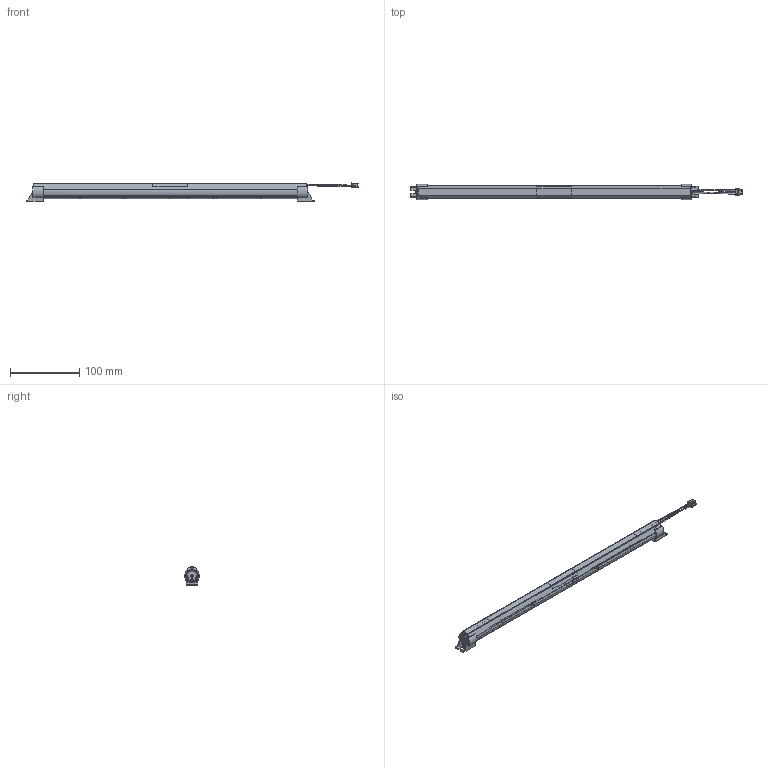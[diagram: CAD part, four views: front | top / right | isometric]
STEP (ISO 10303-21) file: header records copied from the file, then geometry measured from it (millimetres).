
FILE_DESCRIPTION((''),'2;1');
FILE_NAME('15012931Z_DMEC_28002328_PO4-6A','2018-11-09T13:26:26',('juergen.hrach'),(''),'CREO PARAMETRIC BY PTC INC, 2017380','CREO PARAMETRIC BY PTC INC, 2017380','');
FILE_SCHEMA(('AUTOMOTIVE_DESIGN { 1 0 10303 214 1 1 1 1 }'));
Length unit declared in the file: millimetre
Products named in the file (1): 15012931Z_DMEC_28002328_PO4-6A
Bounding box: 478.84 x 21.93 x 26.15 mm (x, y, z)
Volume: 115584.1 mm3; surface area: 116538.1 mm2
Topology: 6 solids, 11 shells, 865 faces, 2351 edges, 1467 vertices
Faces by surface type: plane 572, cylinder 191, torus 44, bspline 40, cone 18
Entity records: 30945 total; most frequent: CARTESIAN_POINT 7973, ORIENTED_EDGE 4702, DIRECTION 4400, EDGE_CURVE 2351, VECTOR 1570, LINE 1570, VERTEX_POINT 1467, AXIS2_PLACEMENT_3D 1415
